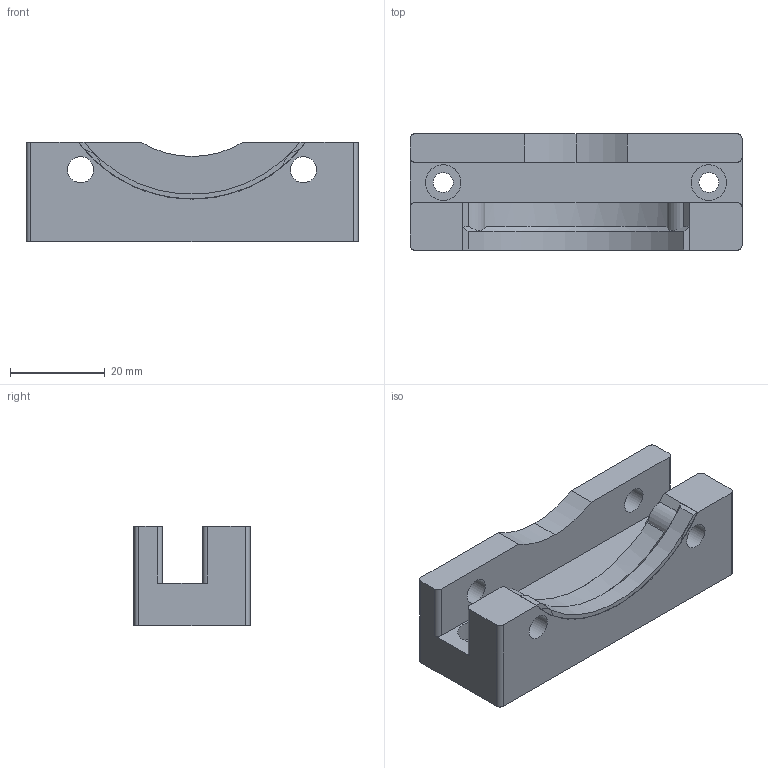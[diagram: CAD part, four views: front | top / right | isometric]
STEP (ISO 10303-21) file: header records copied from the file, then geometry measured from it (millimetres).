
FILE_DESCRIPTION(('HOOPS Exchange Step'),'2;1');
FILE_NAME('C:\Users\lindbee1\AppData\Local\Packages\Shapr3D.Shapr3D_j403pzjkqtqbj\TempState\export\temp_export','2023-09-07T14:27:29+03:00',('lindbee1'),('Shapr3D Limited'),'HOOPS Exchange 2023.2','Shapr3D','Authorized');
FILE_SCHEMA( ('AUTOMOTIVE_DESIGN { 1 0 10303 214 1 1 1 1 }') );
Length unit declared in the file: millimetre
Products named in the file (1): root
Bounding box: 70 x 24.5 x 21 mm (x, y, z)
Volume: 23570.1 mm3; surface area: 9473.2 mm2
Topology: 4 solids, 4 shells, 52 faces, 133 edges, 91 vertices
Faces by surface type: cylinder 29, plane 22, cone 1
Full cylindrical faces by diameter (mm): 4.2 x2, 5.5 x4, 7.5 x2
Entity records: 1721 total; most frequent: CARTESIAN_POINT 343, DIRECTION 300, ORIENTED_EDGE 266, EDGE_CURVE 133, AXIS2_PLACEMENT_3D 118, VERTEX_POINT 91, EDGE_LOOP 66, FACE_BOUND 66
